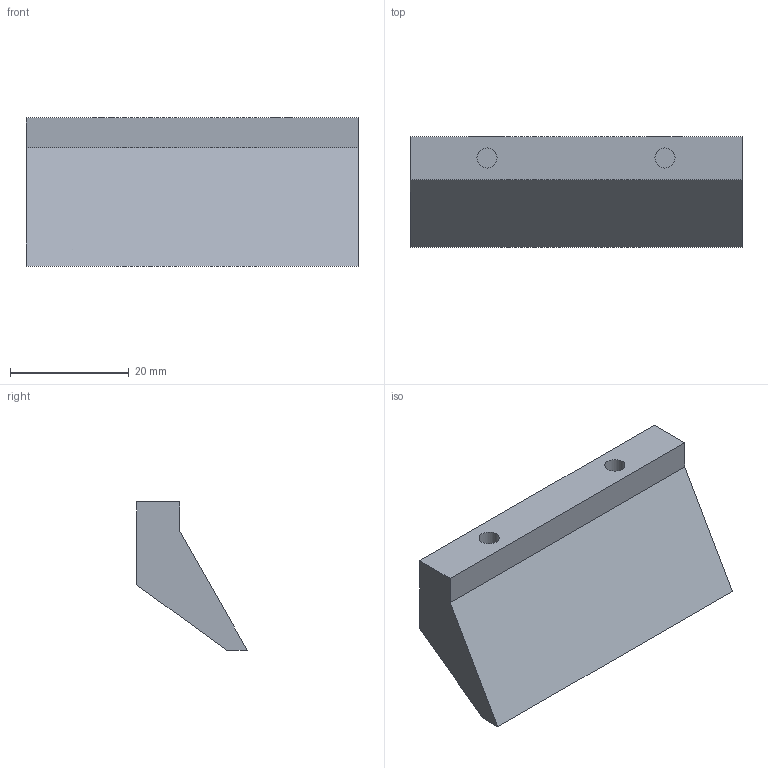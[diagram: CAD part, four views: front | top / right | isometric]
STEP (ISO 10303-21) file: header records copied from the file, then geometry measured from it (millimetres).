
FILE_DESCRIPTION(('Open CASCADE Model'),'2;1');
FILE_NAME('Open CASCADE Shape Model','2026-10-17T23:02:58',('Author'),( 'Open CASCADE'),'Open CASCADE STEP processor 7.9','Open CASCADE 7.9' ,'Unknown');
FILE_SCHEMA(('AUTOMOTIVE_DESIGN { 1 0 10303 214 1 1 1 1 }'));
Length unit declared in the file: millimetre
Products named in the file (1): Open CASCADE STEP translator 7.9 11
Bounding box: 56 x 18.65 x 25 mm (x, y, z)
Volume: 11500.7 mm3; surface area: 4837.2 mm2
Topology: 1 solids, 1 shells, 34 faces, 84 edges, 56 vertices
Faces by surface type: plane 30, cylinder 4
Full cylindrical faces by diameter (mm): 3.4 x4
Entity records: 2112 total; most frequent: CARTESIAN_POINT 355, DIRECTION 328, LINE 236, VECTOR 236, ORIENTED_EDGE 168, PCURVE 168, DEFINITIONAL_REPRESENTATION 168, EDGE_CURVE 84
